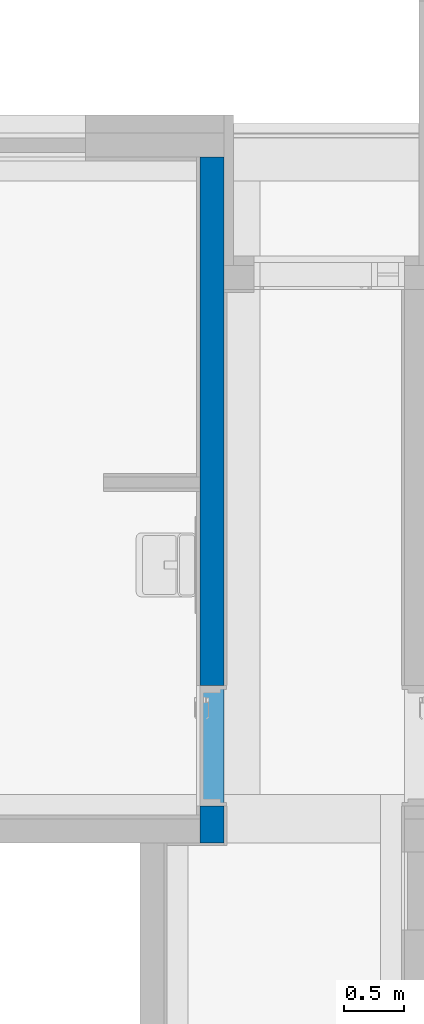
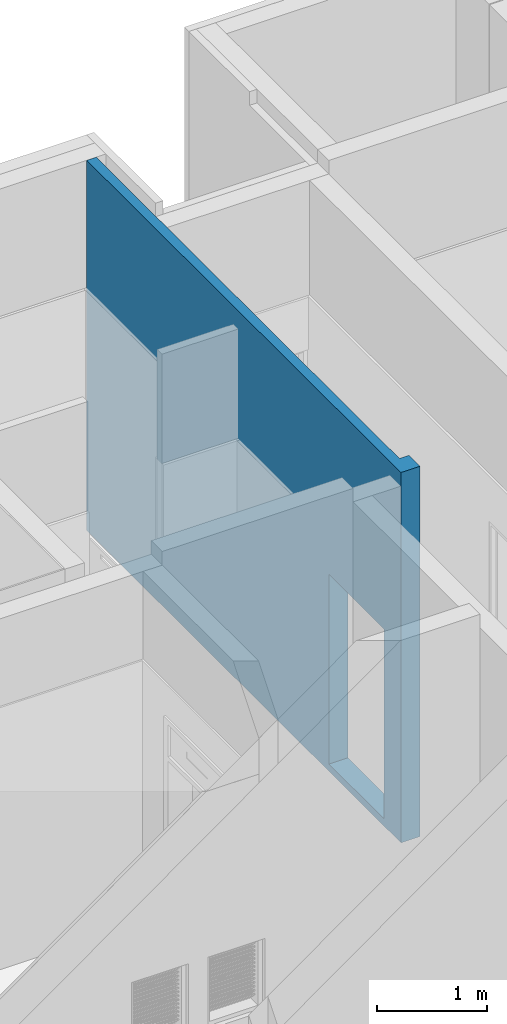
# One storey, part 69 of 81: 1 wall, 1 opening.
"""IFC2X3 building model written with IfcOpenShell, lengths in millimetres."""

from ifc_helpers import new_model, entity, si_unit, converted_unit, derived_unit, direction, frame, frame_2d, origin, place, context, subcontext, project, spatial, rectangle, extrude, faceted_brep, material, layer, layer_set, type_object, element, save


model = new_model("IFC2X3")

# Units and contexts
model_context = context("Model", 3, precision=0.01, world=origin(), true_north=direction((6.123031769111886e-17, 1.0)))
body_context = subcontext(model_context, "Body", "Model", "MODEL_VIEW")
ifc_project = project(units=[si_unit("LENGTHUNIT", "METRE", prefix="MILLI"), si_unit("AREAUNIT", "SQUARE_METRE"), si_unit("VOLUMEUNIT", "CUBIC_METRE"), converted_unit("PLANEANGLEUNIT", "DEGREE", entity("IfcRatioMeasure", 0.017453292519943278), si_unit("PLANEANGLEUNIT", "RADIAN"), dimensions=[0, 0, 0, 0, 0, 0, 0]), si_unit("MASSUNIT", "GRAM", prefix="KILO"), derived_unit("MASSDENSITYUNIT", [(si_unit("MASSUNIT", "GRAM", prefix="KILO"), 1), (si_unit("LENGTHUNIT", "METRE"), -3)]), derived_unit("MOMENTOFINERTIAUNIT", [(si_unit("LENGTHUNIT", "METRE"), 4)]), si_unit("TIMEUNIT", "SECOND"), si_unit("FREQUENCYUNIT", "HERTZ"), si_unit("THERMODYNAMICTEMPERATUREUNIT", "DEGREE_CELSIUS"), derived_unit("THERMALTRANSMITTANCEUNIT", [(si_unit("MASSUNIT", "GRAM", prefix="KILO"), 1), (si_unit("THERMODYNAMICTEMPERATUREUNIT", "KELVIN"), -1), (si_unit("TIMEUNIT", "SECOND"), -3)]), derived_unit("VOLUMETRICFLOWRATEUNIT", [(si_unit("LENGTHUNIT", "METRE"), 3), (si_unit("TIMEUNIT", "SECOND"), -1)]), derived_unit("MASSFLOWRATEUNIT", [(si_unit("MASSUNIT", "GRAM", prefix="KILO"), 1), (si_unit("TIMEUNIT", "SECOND"), -1)]), derived_unit("ROTATIONALFREQUENCYUNIT", [(si_unit("TIMEUNIT", "SECOND"), -1)]), si_unit("ELECTRICCURRENTUNIT", "AMPERE"), si_unit("ELECTRICVOLTAGEUNIT", "VOLT"), si_unit("POWERUNIT", "WATT"), si_unit("FORCEUNIT", "NEWTON", prefix="KILO"), si_unit("ILLUMINANCEUNIT", "LUX"), si_unit("LUMINOUSFLUXUNIT", "LUMEN"), si_unit("LUMINOUSINTENSITYUNIT", "CANDELA"), derived_unit("USERDEFINED", [(si_unit("MASSUNIT", "GRAM", prefix="KILO"), -1), (si_unit("LENGTHUNIT", "METRE"), -2), (si_unit("TIMEUNIT", "SECOND"), 3), (si_unit("LUMINOUSFLUXUNIT", "LUMEN"), 1)]), derived_unit("SOUNDPOWERUNIT", [(si_unit("MASSUNIT", "GRAM", prefix="KILO"), 1), (si_unit("LENGTHUNIT", "METRE"), 2), (si_unit("TIMEUNIT", "SECOND"), -3)]), derived_unit("SOUNDPRESSUREUNIT", [(si_unit("MASSUNIT", "GRAM", prefix="KILO"), 1), (si_unit("LENGTHUNIT", "METRE"), -1), (si_unit("TIMEUNIT", "SECOND"), -2)]), derived_unit("LINEARVELOCITYUNIT", [(si_unit("LENGTHUNIT", "METRE"), 1), (si_unit("TIMEUNIT", "SECOND"), -1)]), si_unit("PRESSUREUNIT", "PASCAL"), derived_unit("USERDEFINED", [(si_unit("LENGTHUNIT", "METRE"), -2), (si_unit("MASSUNIT", "GRAM", prefix="KILO"), 1), (si_unit("TIMEUNIT", "SECOND"), -2)]), derived_unit("LINEARFORCEUNIT", [(si_unit("MASSUNIT", "GRAM", prefix="KILO"), 1), (si_unit("LENGTHUNIT", "METRE"), 1), (si_unit("TIMEUNIT", "SECOND"), -2), (si_unit("LENGTHUNIT", "METRE"), -1)]), derived_unit("PLANARFORCEUNIT", [(si_unit("MASSUNIT", "GRAM", prefix="KILO"), 1), (si_unit("LENGTHUNIT", "METRE"), 1), (si_unit("TIMEUNIT", "SECOND"), -2), (si_unit("LENGTHUNIT", "METRE"), -2)])], contexts=[model_context])

# Site, building, storey
site_placement = place(None, frame((-14167.972527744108, -657.2125860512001, 0.0)))
site = spatial("IfcSite", under=ifc_project, at=site_placement, Name="Default", CompositionType="ELEMENT")
building_placement = place(site_placement, origin())
building = spatial("IfcBuilding", under=site, at=building_placement, Name="Sample Building", CompositionType="ELEMENT")
storey_placement = place(building_placement, frame((0.0, 0.0, 13400.0)))
storey = spatial("IfcBuildingStorey", under=building, at=storey_placement, Name="지상 4층", CompositionType="ELEMENT", Elevation=13400.00000000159)

# Wall, opening
ifc_material = material(Name="KBIMS-콘크리트")
ifc_layer = layer(ifc_material, 200.0)
ifc_layer_set = layer_set([ifc_layer], Name="기본 벽:WA111-철근콘크리트구조 벽 200mm_CW1")
wall_type = type_object("IfcWallType", Name="기본 벽:WA111-철근콘크리트구조 벽 200mm_CW1", PredefinedType="STANDARD", material=ifc_layer_set)
wall_placement = place(storey_placement, frame((36367.963798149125, 27957.212307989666, -2.3000097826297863e-09), z_axis=(0.0, 0.0, 1.0), x_axis=(0.0, -1.0, 0.0)))
wall = element("IfcWall", 1, at=wall_placement, inside=storey, type_object=wall_type, Name="기본 벽:WA111-철근콘크리트구조 벽 200mm_CW1", ObjectType="기본 벽:WA111-철근콘크리트구조 벽 200mm_CW1", context=body_context, shape_type="Brep", body=[
    faceted_brep([(0.0, -100.0, 0.0), (5500.0, -100.0, 0.0), (5700.0, -100.0, 0.0), (5700.0, -100.0, 3950.0), (5700.0, -100.0, 4100.0), (5500.0, -100.0, 4100.0), (5300.000194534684, -100.0, 4100.0), (199.99988175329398, -100.0, 4100.0), (0.0, -100.0, 4100.0), (0.0, -100.0, 4050.0), (0.0, -100.0, 3900.0), (0.0, -100.0, 3700.0), (5393.539489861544, -100.0, 2180.0), (5393.539489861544, -100.0, 80.0), (4393.539489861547, -100.0, 80.0), (4393.539489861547, -100.0, 2180.0), (5700.0, 100.0, 0.0), (1100.0000128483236, 100.0, 0.0), (900.0000128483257, 100.0, 0.0), (0.0, 100.0, 0.0), (0.0, 100.0, 3950.0), (199.99988175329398, 100.0, 3950.0), (900.0000128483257, 100.0, 3950.0), (1100.0000128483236, 100.0, 3950.0), (5300.000194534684, 100.0, 3950.0), (5500.0, 100.0, 3950.0), (5500.0, 100.0, 4100.0), (5700.0, 100.0, 4100.0), (5393.539489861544, 100.0, 80.0), (5393.539489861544, 100.0, 2180.0), (4393.539489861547, 100.0, 2180.0), (4393.539489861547, 100.0, 80.0), (5500.0, 0.008692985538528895, 4100.0), (0.0, 0.0086929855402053, 4100.0), (0.0, 0.0086929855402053, 3950.0), (5500.0, 0.008692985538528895, 3950.0)], [[[0, 1, 2, 3, 4, 5, 6, 7, 8, 9, 10, 11], [12, 13, 14, 15]], [[16, 17, 18, 19, 20, 21, 22, 23, 24, 25, 26, 27], [28, 29, 30, 31]], [[2, 1, 0, 19, 18, 17, 16]], [[8, 7, 6, 5, 4, 27, 26, 32, 33]], [[4, 3, 2, 16, 27]], [[0, 11, 10, 9, 8, 33, 34, 20, 19]], [[29, 28, 13, 12]], [[30, 29, 12, 15]], [[31, 30, 15, 14]], [[28, 31, 14, 13]], [[34, 35, 25, 24, 23, 22, 21, 20]], [[35, 32, 26, 25]], [[32, 35, 34, 33]]]),
])
opening_placement = place(wall_placement, frame((5393.539489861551, 100.0, 80.0)))
element("IfcOpeningElement", 2, at=opening_placement, cuts=wall, Name="DR111-외여닫이문(철재,일반)_유리포함(원형):DR111-외여닫이문(철재, 일반)_유리포함 (원형)_2100x1000:1", ObjectType="Opening", context=body_context, shape_type="SweptSolid", body=[
    extrude(rectangle(XDim=2099.999999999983, YDim=999.9999999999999, at=frame_2d((1049.999999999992, 500.00000000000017), x_axis=(1.0, 0.0))), frame((0.0, 0.0, 0.0), z_axis=(0.0, -1.0, 0.0), x_axis=(0.0, 0.0, 1.0)), (0.0, 0.0, 1.0), 200.0),
])

save(model, "model.ifc")
